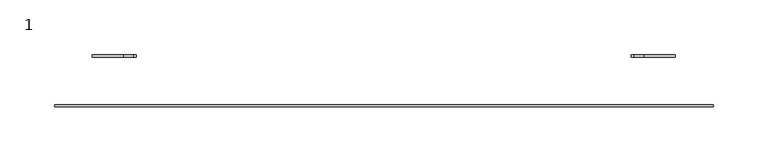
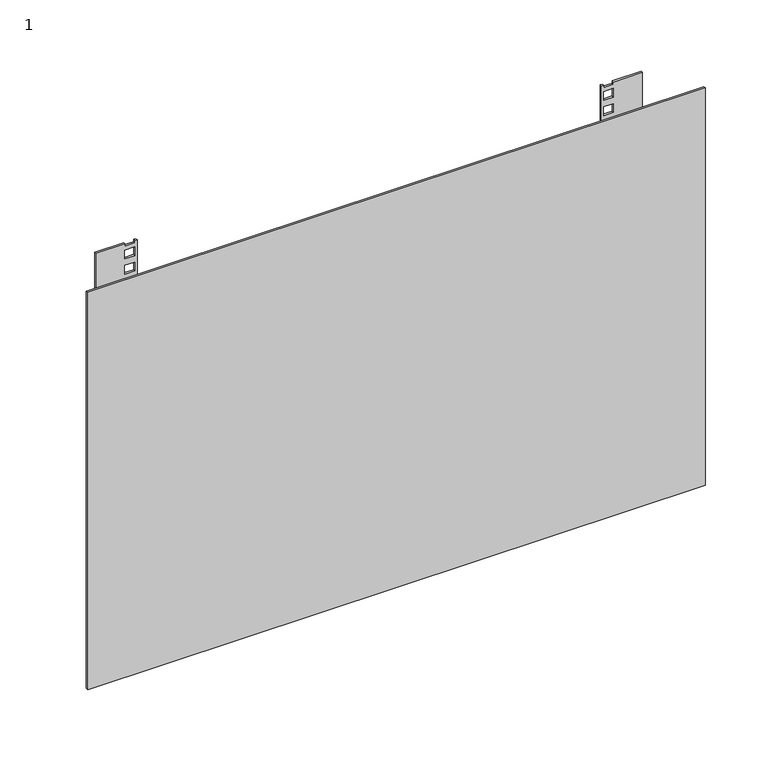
"""IFC4 building model written with IfcOpenShell, lengths in millimetres: proxy geometry, 1 : 9U 600мм металлическая дверь."""

from ifc_helpers import new_model, si_unit, frame, origin, place, context, project, spatial, polyline, outline, extrude, source, transform, mapped, element, save


def proxy_1_bb6865f0(model_context):
    return source(origin(), model_context, "Body", "SweptSolid", [
        extrude(outline(polyline([(20.4675, 225.3), (20.4675, 265.3), (448.4675, 265.3), (448.4675, 237.05), (446.1175, 237.05), (446.1175, 227.55), (448.4675, 227.55), (448.4675, 225.3), (20.4675, 225.3)]), holes=[polyline([(55.0175, 227.55), (55.0175, 237.05), (46.0675, 237.05), (46.0675, 227.55), (55.0175, 227.55)]), polyline([(70.6675, 227.55), (70.6675, 237.05), (61.7175, 237.05), (61.7175, 227.55), (70.6675, 227.55)]), polyline([(86.3175, 227.55), (86.3175, 237.05), (77.3675, 237.05), (77.3675, 227.55), (86.3175, 227.55)]), polyline([(99.4675, 237.05), (90.5175, 237.05), (90.5175, 227.55), (99.4675, 227.55), (99.4675, 237.05)]), polyline([(115.1175, 237.05), (106.1675, 237.05), (106.1675, 227.55), (115.1175, 227.55), (115.1175, 237.05)]), polyline([(130.7675, 237.05), (121.8175, 237.05), (121.8175, 227.55), (130.7675, 227.55), (130.7675, 237.05)]), polyline([(143.9175, 237.05), (134.9675, 237.05), (134.9675, 227.55), (143.9175, 227.55), (143.9175, 237.05)]), polyline([(159.5675, 237.05), (150.6175, 237.05), (150.6175, 227.55), (159.5675, 227.55), (159.5675, 237.05)]), polyline([(175.2175, 237.05), (166.2675, 237.05), (166.2675, 227.55), (175.2175, 227.55), (175.2175, 237.05)]), polyline([(188.3675, 237.05), (179.4175, 237.05), (179.4175, 227.55), (188.3675, 227.55), (188.3675, 237.05)]), polyline([(204.0175, 237.05), (195.0675, 237.05), (195.0675, 227.55), (204.0175, 227.55), (204.0175, 237.05)]), polyline([(219.6675, 237.05), (210.7175, 237.05), (210.7175, 227.55), (219.6675, 227.55), (219.6675, 237.05)]), polyline([(232.8175, 237.05), (223.8675, 237.05), (223.8675, 227.55), (232.8175, 227.55), (232.8175, 237.05)]), polyline([(248.4675, 237.05), (239.5175, 237.05), (239.5175, 227.55), (248.4675, 227.55), (248.4675, 237.05)]), polyline([(264.1175, 237.05), (255.1675, 237.05), (255.1675, 227.55), (264.1175, 227.55), (264.1175, 237.05)]), polyline([(277.2675, 237.05), (268.3175, 237.05), (268.3175, 227.55), (277.2675, 227.55), (277.2675, 237.05)]), polyline([(292.9175, 237.05), (283.9675, 237.05), (283.9675, 227.55), (292.9175, 227.55), (292.9175, 237.05)]), polyline([(308.5675, 237.05), (299.6175, 237.05), (299.6175, 227.55), (308.5675, 227.55), (308.5675, 237.05)]), polyline([(321.7175, 237.05), (312.7675, 237.05), (312.7675, 227.55), (321.7175, 227.55), (321.7175, 237.05)]), polyline([(337.3675, 237.05), (328.4175, 237.05), (328.4175, 227.55), (337.3675, 227.55), (337.3675, 237.05)]), polyline([(353.0175, 237.05), (344.0675, 237.05), (344.0675, 227.55), (353.0175, 227.55), (353.0175, 237.05)]), polyline([(366.1675, 237.05), (357.2175, 237.05), (357.2175, 227.55), (366.1675, 227.55), (366.1675, 237.05)]), polyline([(381.8175, 237.05), (372.8675, 237.05), (372.8675, 227.55), (381.8175, 227.55), (381.8175, 237.05)]), polyline([(397.4675, 237.05), (388.5175, 237.05), (388.5175, 227.55), (397.4675, 227.55), (397.4675, 237.05)]), polyline([(410.6175, 237.05), (401.6675, 237.05), (401.6675, 227.55), (410.6175, 227.55), (410.6175, 237.05)]), polyline([(426.2675, 237.05), (417.3175, 237.05), (417.3175, 227.55), (426.2675, 227.55), (426.2675, 237.05)]), polyline([(441.9175, 237.05), (432.9675, 237.05), (432.9675, 227.55), (441.9175, 227.55), (441.9175, 237.05)])]), frame((0.0, -254.6777479, 0.0), z_axis=(0.0, 1.0, 0.0), x_axis=(0.0, 0.0, 1.0)), (0.0, 0.0, 1.0), 2.0),
        extrude(outline(polyline([(20.4675, -265.7), (20.4675, -225.7), (448.4675, -225.7), (448.4675, -227.95), (446.1175, -227.95), (446.1175, -237.45), (448.4675, -237.45), (448.4675, -265.7), (20.4675, -265.7)]), holes=[polyline([(55.0175, -237.45), (55.0175, -227.95), (46.0675, -227.95), (46.0675, -237.45), (55.0175, -237.45)]), polyline([(70.6675, -237.45), (70.6675, -227.95), (61.7175, -227.95), (61.7175, -237.45), (70.6675, -237.45)]), polyline([(86.3175, -237.45), (86.3175, -227.95), (77.3675, -227.95), (77.3675, -237.45), (86.3175, -237.45)]), polyline([(90.5175, -237.45), (99.4675, -237.45), (99.4675, -227.95), (90.5175, -227.95), (90.5175, -237.45)]), polyline([(106.1675, -237.45), (115.1175, -237.45), (115.1175, -227.95), (106.1675, -227.95), (106.1675, -237.45)]), polyline([(121.8175, -237.45), (130.7675, -237.45), (130.7675, -227.95), (121.8175, -227.95), (121.8175, -237.45)]), polyline([(134.9675, -237.45), (143.9175, -237.45), (143.9175, -227.95), (134.9675, -227.95), (134.9675, -237.45)]), polyline([(150.6175, -237.45), (159.5675, -237.45), (159.5675, -227.95), (150.6175, -227.95), (150.6175, -237.45)]), polyline([(166.2675, -237.45), (175.2175, -237.45), (175.2175, -227.95), (166.2675, -227.95), (166.2675, -237.45)]), polyline([(179.4175, -237.45), (188.3675, -237.45), (188.3675, -227.95), (179.4175, -227.95), (179.4175, -237.45)]), polyline([(195.0675, -237.45), (204.0175, -237.45), (204.0175, -227.95), (195.0675, -227.95), (195.0675, -237.45)]), polyline([(210.7175, -237.45), (219.6675, -237.45), (219.6675, -227.95), (210.7175, -227.95), (210.7175, -237.45)]), polyline([(223.8675, -237.45), (232.8175, -237.45), (232.8175, -227.95), (223.8675, -227.95), (223.8675, -237.45)]), polyline([(239.5175, -237.45), (248.4675, -237.45), (248.4675, -227.95), (239.5175, -227.95), (239.5175, -237.45)]), polyline([(255.1675, -237.45), (264.1175, -237.45), (264.1175, -227.95), (255.1675, -227.95), (255.1675, -237.45)]), polyline([(268.3175, -237.45), (277.2675, -237.45), (277.2675, -227.95), (268.3175, -227.95), (268.3175, -237.45)]), polyline([(283.9675, -237.45), (292.9175, -237.45), (292.9175, -227.95), (283.9675, -227.95), (283.9675, -237.45)]), polyline([(299.6175, -237.45), (308.5675, -237.45), (308.5675, -227.95), (299.6175, -227.95), (299.6175, -237.45)]), polyline([(312.7675, -237.45), (321.7175, -237.45), (321.7175, -227.95), (312.7675, -227.95), (312.7675, -237.45)]), polyline([(328.4175, -237.45), (337.3675, -237.45), (337.3675, -227.95), (328.4175, -227.95), (328.4175, -237.45)]), polyline([(344.0675, -237.45), (353.0175, -237.45), (353.0175, -227.95), (344.0675, -227.95), (344.0675, -237.45)]), polyline([(357.2175, -237.45), (366.1675, -237.45), (366.1675, -227.95), (357.2175, -227.95), (357.2175, -237.45)]), polyline([(372.8675, -237.45), (381.8175, -237.45), (381.8175, -227.95), (372.8675, -227.95), (372.8675, -237.45)]), polyline([(388.5175, -237.45), (397.4675, -237.45), (397.4675, -227.95), (388.5175, -227.95), (388.5175, -237.45)]), polyline([(401.6675, -237.45), (410.6175, -237.45), (410.6175, -227.95), (401.6675, -227.95), (401.6675, -237.45)]), polyline([(417.3175, -237.45), (426.2675, -237.45), (426.2675, -227.95), (417.3175, -227.95), (417.3175, -237.45)]), polyline([(432.9675, -237.45), (441.9175, -237.45), (441.9175, -227.95), (432.9675, -227.95), (432.9675, -237.45)])]), frame((0.0, -254.6777479, 0.0), z_axis=(0.0, 1.0, 0.0), x_axis=(0.0, 0.0, 1.0)), (0.0, 0.0, 1.0), 2.0),
        extrude(outline(polyline([(-300.0, -298.0), (300.0, -298.0), (300.0, -300.0), (-300.0, -300.0), (-300.0, -298.0)])), frame((0.0, 0.0, 40.0), z_axis=(0.0, 0.0, 1.0), x_axis=(1.0, 0.0, 0.0)), (0.0, 0.0, 1.0), 408.0),
    ])


if __name__ == "__main__":
    model = new_model("IFC4")
    model_context = context("Model", 3, world=origin())
    ifc_project = project(units=[si_unit("LENGTHUNIT", "METRE", prefix="MILLI")], contexts=[model_context])
    site = spatial("IfcSite", under=ifc_project)
    building = spatial("IfcBuilding", under=site)
    placement = place(None, origin())
    proxy_1_shape = proxy_1_bb6865f0(model_context)
    element("IfcBuildingElementProxy", 1, Name="1 : 9U 600мм металлическая дверь", ObjectType="1 : 9U 600мм металлическая дверь", at=placement, inside=building, context=model_context, shape_type="MappedRepresentation", body=[
        mapped(proxy_1_shape, transform((0.0, 0.0, 0.0), x_axis=(1.0, 0.0, 0.0), y_axis=(0.0, 1.0, 0.0), z_axis=(0.0, 0.0, 1.0))),
    ])
    save(model, "model.ifc")
